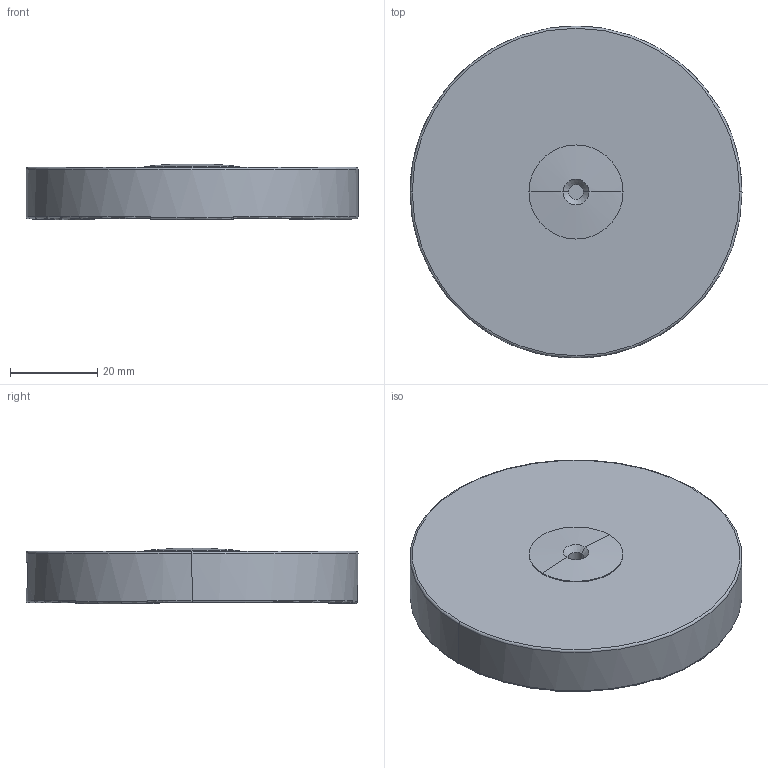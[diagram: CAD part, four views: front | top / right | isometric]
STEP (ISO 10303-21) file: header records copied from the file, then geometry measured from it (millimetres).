
FILE_DESCRIPTION (( 'STEP AP203' ), '1' );
FILE_NAME ('iLoad.STEP', '2018-06-01T02:30:19', ( '' ), ( '' ), 'SwSTEP 2.0', 'SolidWorks 2016', '' );
FILE_SCHEMA (( 'CONFIG_CONTROL_DESIGN' ));
Length unit declared in the file: millimetre
Products named in the file (3): iLoad; iLoad Base; 500-00269_2_Cover, TOP, 100, 17-4PH.SLDDRW
Assembly tree (2 placements, depth 2):
  iLoad
    500-00269_2_Cover, TOP, 100, 17-4PH.SLDDRW
    iLoad Base
Bounding box: 76.2 x 76.2 x 12.81 mm (x, y, z)
Volume: 35923.6 mm3; surface area: 21374.6 mm2
Topology: 2 solids, 2 shells, 169 faces, 418 edges, 244 vertices
Faces by surface type: cone 55, cylinder 55, plane 34, torus 23, sphere 2
Entity records: 5307 total; most frequent: CARTESIAN_POINT 1038, DIRECTION 900, ORIENTED_EDGE 792, EDGE_CURVE 396, AXIS2_PLACEMENT_3D 366, VERTEX_POINT 244, CIRCLE 192, EDGE_LOOP 186
